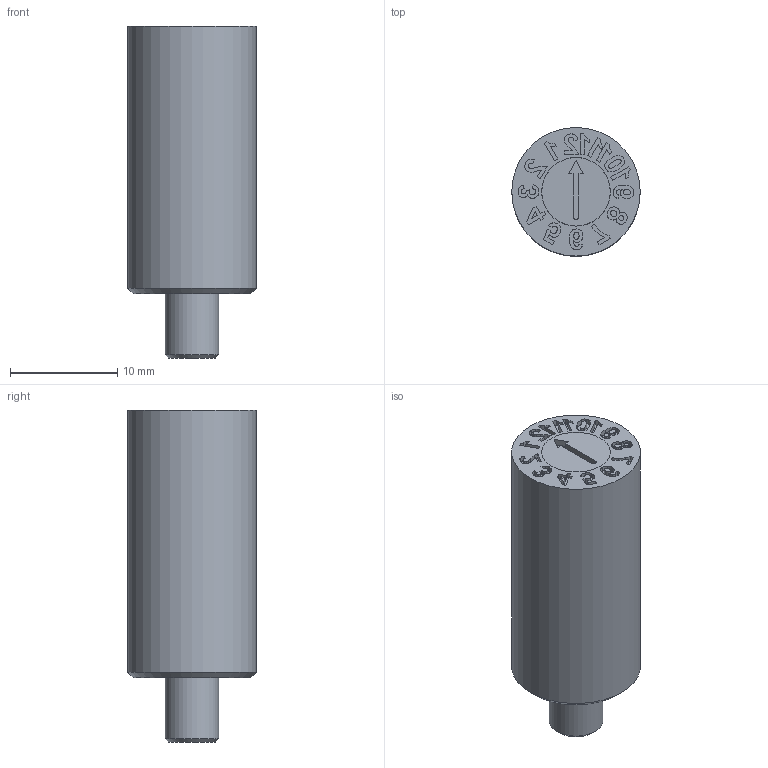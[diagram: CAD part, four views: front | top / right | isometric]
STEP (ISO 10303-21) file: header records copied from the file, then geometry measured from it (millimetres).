
FILE_DESCRIPTION(/* description */ (''),/* implementation_level */ '2;1');
FILE_NAME(/* name */ 'IMC-D1200-M12.step',/* time_stamp */ '2025-04-16T14:11:54+02:00',/* author */ (''),/* organization */ (''),/* preprocessor_version */ 'ST-DEVELOPER v20.1',/* originating_system */ 'Autodesk Translation Framework v14.4.0.0',/* authorisation */ '');
FILE_SCHEMA (('AUTOMOTIVE_DESIGN { 1 0 10303 214 3 1 1 }'));
Length unit declared in the file: millimetre
Products named in the file (1): D1200-M12
Bounding box: 12 x 12 x 31 mm (x, y, z)
Volume: 2929.2 mm3; surface area: 1352.2 mm2
Topology: 1 solids, 1 shells, 295 faces, 802 edges, 534 vertices
Faces by surface type: bspline 191, plane 97, cylinder 5, cone 2
Full cylindrical faces by diameter (mm): 5 x1, 6.4 x1, 6.41 x1, 12 x1
Entity records: 11055 total; most frequent: CARTESIAN_POINT 4879, ORIENTED_EDGE 1604, EDGE_CURVE 802, DIRECTION 642, VERTEX_POINT 534, LINE 408, VECTOR 408, B_SPLINE_CURVE_WITH_KNOTS 382
